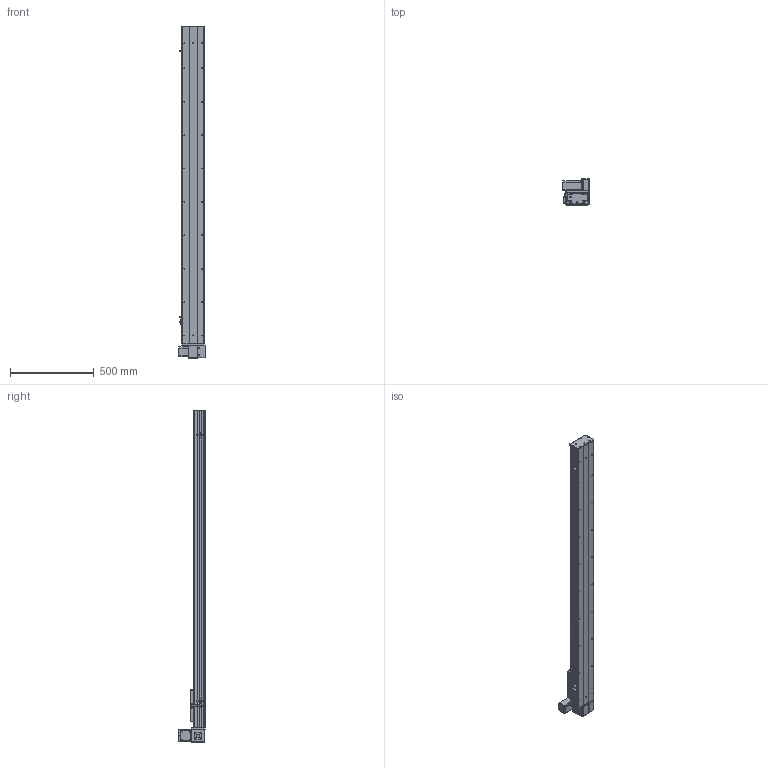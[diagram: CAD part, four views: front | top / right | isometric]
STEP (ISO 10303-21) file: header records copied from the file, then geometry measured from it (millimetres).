
FILE_DESCRIPTION (( 'STEP AP203' ), '1' );
FILE_NAME ('Y135CB-D90-S1600-UL-P400W.STEP', '2020-02-18T07:37:53', ( '微软用户' ), ( '微软中国' ), 'SwSTEP 2.0', 'SolidWorks 2017', '' );
FILE_SCHEMA (( 'CONFIG_CONTROL_DESIGN' ));
Length unit declared in the file: millimetre
Products named in the file (18): 0B-萇儂楊擘啣; 5C--俋欶; san松下电机400不带刹车----; C-雄赽釱--; 5CB --掛极耜裔啣-; Y10B-耜蚾蟀諉啣----; C-詩湍揤踡え-陔; 00B-俋欶BM--; Y135CB-耜裔; 135CB--詩湍-CE; Y10B--々湍喘謫眊--666; 135CB---遴掛极.-; Y100-135俋离換覜ん--; Y135CB-D90-S1600-UL-P400W; 35CB---喘謫眊楊擘啣; Y135C-陔俋离換覜結え-; 0B-埴倛裔啣; 0B-源倛裔啣
Assembly tree (21 placements, depth 2):
  Y135CB-D90-S1600-UL-P400W
    Y135CB-耜裔
    135CB---遴掛极.-
    35CB---喘謫眊楊擘啣
    0B-埴倛裔啣
    0B-源倛裔啣
    0B-萇儂楊擘啣
    san松下电机400不带刹车----
    5CB --掛极耜裔啣-  x2
    C-詩湍揤踡え-陔  x2
    135CB--詩湍-CE
    Y100-135俋离換覜ん--  x3
    Y135C-陔俋离換覜結え-
    5C--俋欶
    C-雄赽釱--
    Y10B-耜蚾蟀諉啣----
    00B-俋欶BM--
    Y10B--々湍喘謫眊--666
Bounding box: 157 x 158.7 x 1988 mm (x, y, z)
Volume: 5944599.4 mm3; surface area: 2341733.3 mm2
Topology: 21 solids, 21 shells, 957 faces, 2581 edges, 1710 vertices
Faces by surface type: cylinder 485, plane 456, cone 16
Entity records: 29955 total; most frequent: DIRECTION 4977, CARTESIAN_POINT 4944, ORIENTED_EDGE 4638, EDGE_CURVE 2319, AXIS2_PLACEMENT_3D 1819, VERTEX_POINT 1538, VECTOR 1339, LINE 1339
